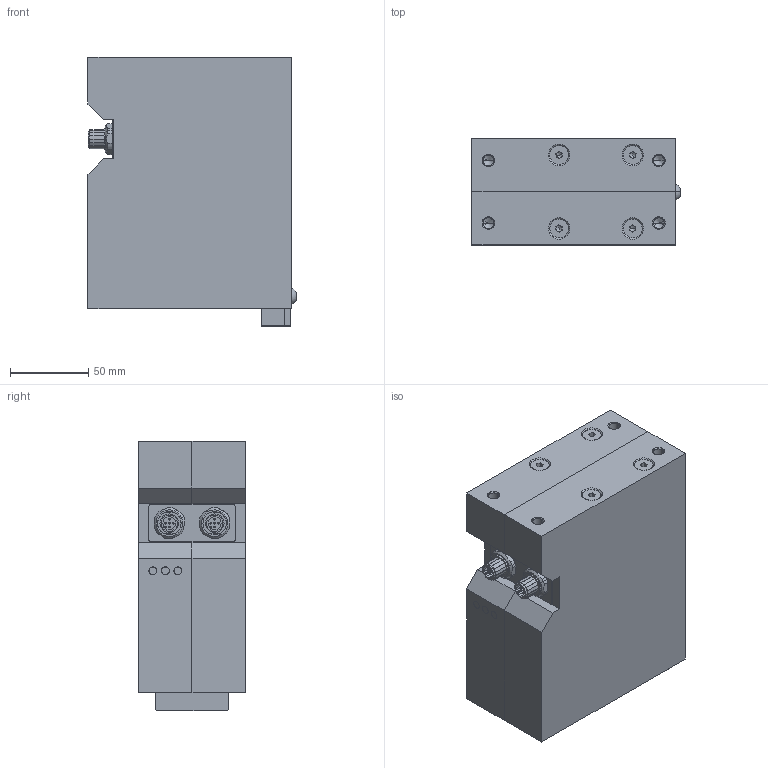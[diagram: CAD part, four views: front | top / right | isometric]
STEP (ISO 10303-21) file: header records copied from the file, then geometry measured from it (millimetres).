
FILE_DESCRIPTION (( 'STEP AP203' ), '1' );
FILE_NAME ('ELD-430-11-5B_Anschlag oben eingefahren.STEP', '2019-02-12T14:09:36', ( '' ), ( '' ), 'SwSTEP 2.0', 'SolidWorks 2017', '' );
FILE_SCHEMA (( 'CONFIG_CONTROL_DESIGN' ));
Length unit declared in the file: millimetre
Products named in the file (1): ELD-430-11-5B_Anschlag oben eingefahren
Bounding box: 133.02 x 68 x 172.5 mm (x, y, z)
Volume: 1258914.8 mm3; surface area: 194229.7 mm2
Topology: 43 solids, 43 shells, 755 faces, 1820 edges, 1135 vertices
Faces by surface type: plane 476, cylinder 163, cone 110, torus 4, sphere 2
Entity records: 21529 total; most frequent: CARTESIAN_POINT 3773, DIRECTION 3714, ORIENTED_EDGE 3548, EDGE_CURVE 1774, LINE 1322, VECTOR 1322, AXIS2_PLACEMENT_3D 1196, VERTEX_POINT 1135
